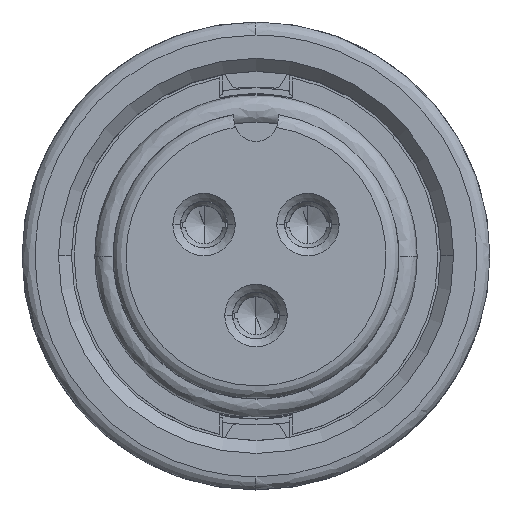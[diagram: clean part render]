
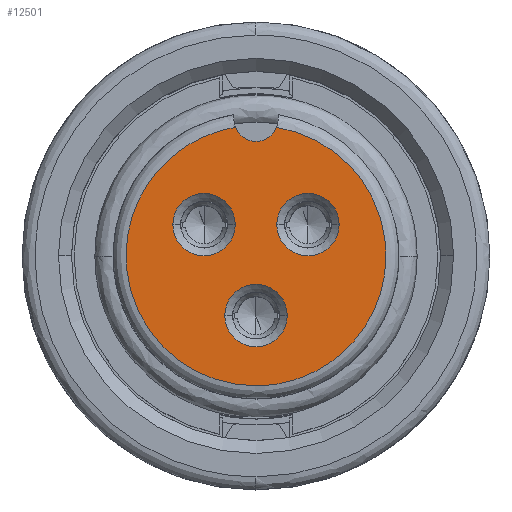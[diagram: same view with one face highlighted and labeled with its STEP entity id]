
A CAD part, top view. The second image highlights one B-rep face of the part: STEP entity #12501.
In plain terms, the highlighted planar face has unit normal (0, 0, 1).
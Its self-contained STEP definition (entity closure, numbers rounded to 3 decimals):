
#263 = DIRECTION ( 'NONE',  ( 0., 0., 1. ) ) ;
#370 = DIRECTION ( 'NONE',  ( 1., 0., 0. ) ) ;
#561 = EDGE_CURVE ( 'NONE', #35519, #34629, #13180, .T. ) ;
#1351 = CARTESIAN_POINT ( 'NONE',  ( -0.061, -5., 0. ) ) ;
#1948 =( BOUNDED_CURVE ( )  B_SPLINE_CURVE ( 3, ( #1351, #17536, #28122, #17720 ),
 .UNSPECIFIED., .F., .T. ) 
 B_SPLINE_CURVE_WITH_KNOTS ( ( 4, 4 ),
 ( 0., 1. ),
 .UNSPECIFIED. ) 
 CURVE ( )  GEOMETRIC_REPRESENTATION_ITEM ( )  RATIONAL_B_SPLINE_CURVE ( ( 1., 0.39, 0.39, 1. ) ) 
 REPRESENTATION_ITEM ( '' )  );
#2088 = ORIENTED_EDGE ( 'NONE', *, *, #12130, .F. ) ;
#2598 = CARTESIAN_POINT ( 'NONE',  ( -0.79, 4.937, 0. ) ) ;
#3040 = CARTESIAN_POINT ( 'NONE',  ( 0., -2.3, 0. ) ) ;
#3306 = AXIS2_PLACEMENT_3D ( 'NONE', #20636, #31582, #3716 ) ;
#3716 = DIRECTION ( 'NONE',  ( 1., 0., 0. ) ) ;
#3756 = VERTEX_POINT ( 'NONE', #2598 ) ;
#3860 = AXIS2_PLACEMENT_3D ( 'NONE', #16935, #25532, #19459 ) ;
#3952 = DIRECTION ( 'NONE',  ( 0., 0., -1. ) ) ;
#3965 = CIRCLE ( 'NONE', #11995, 1.2 ) ;
#4649 = VERTEX_POINT ( 'NONE', #20788 ) ;
#4751 = ORIENTED_EDGE ( 'NONE', *, *, #5674, .T. ) ;
#5452 = PLANE ( 'NONE',  #8392 ) ;
#5637 = FACE_BOUND ( 'NONE', #23298, .T. ) ;
#5674 = EDGE_CURVE ( 'NONE', #6828, #17761, #33152, .T. ) ;
#6631 = CARTESIAN_POINT ( 'NONE',  ( 1.2, -2.3, 0. ) ) ;
#6771 = VERTEX_POINT ( 'NONE', #32858 ) ;
#6828 = VERTEX_POINT ( 'NONE', #14842 ) ;
#6881 = CIRCLE ( 'NONE', #8026, 0.85 ) ;
#7332 = CIRCLE ( 'NONE', #3306, 1.2 ) ;
#7530 = DIRECTION ( 'NONE',  ( 0., 0., -1. ) ) ;
#7623 = VERTEX_POINT ( 'NONE', #25382 ) ;
#7895 = ORIENTED_EDGE ( 'NONE', *, *, #26593, .T. ) ;
#8026 = AXIS2_PLACEMENT_3D ( 'NONE', #35215, #7530, #18689 ) ;
#8104 = CIRCLE ( 'NONE', #21904, 1.2 ) ;
#8109 = VERTEX_POINT ( 'NONE', #6631 ) ;
#8139 =( BOUNDED_CURVE ( )  B_SPLINE_CURVE ( 3, ( #12140, #9248, #25965, #23119 ),
 .UNSPECIFIED., .F., .T. ) 
 B_SPLINE_CURVE_WITH_KNOTS ( ( 4, 4 ),
 ( 0., 1. ),
 .UNSPECIFIED. ) 
 CURVE ( )  GEOMETRIC_REPRESENTATION_ITEM ( )  RATIONAL_B_SPLINE_CURVE ( ( 1., 0.382, 0.382, 1. ) ) 
 REPRESENTATION_ITEM ( '' )  );
#8392 = AXIS2_PLACEMENT_3D ( 'NONE', #32964, #263, #11213 ) ;
#8643 = CIRCLE ( 'NONE', #29334, 1.2 ) ;
#9056 = CARTESIAN_POINT ( 'NONE',  ( 2., 1.2, 0. ) ) ;
#9248 = CARTESIAN_POINT ( 'NONE',  ( 9.38, 3.562, 0. ) ) ;
#9602 = DIRECTION ( 'NONE',  ( 1., 0., 0. ) ) ;
#9789 = DIRECTION ( 'NONE',  ( 0., 0., -1. ) ) ;
#9814 = ORIENTED_EDGE ( 'NONE', *, *, #10621, .F. ) ;
#10621 = EDGE_CURVE ( 'NONE', #6771, #3756, #1948, .T. ) ;
#11213 = DIRECTION ( 'NONE',  ( 1., 0., 0. ) ) ;
#11555 = ORIENTED_EDGE ( 'NONE', *, *, #19648, .T. ) ;
#11995 = AXIS2_PLACEMENT_3D ( 'NONE', #9056, #9789, #9602 ) ;
#12130 = EDGE_CURVE ( 'NONE', #7623, #6771, #8139, .T. ) ;
#12140 = CARTESIAN_POINT ( 'NONE',  ( 0.79, 4.937, 0. ) ) ;
#12501 = ADVANCED_FACE ( 'NONE', ( #21838, #5637, #27567, #32790 ), #5452, .T. ) ;
#13180 = CIRCLE ( 'NONE', #26918, 1.2 ) ;
#13551 = EDGE_LOOP ( 'NONE', ( #31827, #4751 ) ) ;
#14842 = CARTESIAN_POINT ( 'NONE',  ( 3.2, 1.2, 0. ) ) ;
#15029 = ORIENTED_EDGE ( 'NONE', *, *, #28802, .T. ) ;
#16935 = CARTESIAN_POINT ( 'NONE',  ( 2., 1.2, 0. ) ) ;
#17458 = DIRECTION ( 'NONE',  ( 1., 0., 0. ) ) ;
#17536 = CARTESIAN_POINT ( 'NONE',  ( -8.571, -4.896, 0. ) ) ;
#17720 = CARTESIAN_POINT ( 'NONE',  ( -0.79, 4.937, 0. ) ) ;
#17761 = VERTEX_POINT ( 'NONE', #18489 ) ;
#18489 = CARTESIAN_POINT ( 'NONE',  ( 0.8, 1.2, 0. ) ) ;
#18689 = DIRECTION ( 'NONE',  ( 1., 0., 0. ) ) ;
#19301 = EDGE_LOOP ( 'NONE', ( #15029, #20878 ) ) ;
#19459 = DIRECTION ( 'NONE',  ( 1., 0., 0. ) ) ;
#19648 = EDGE_CURVE ( 'NONE', #34629, #35519, #7332, .T. ) ;
#20518 = CARTESIAN_POINT ( 'NONE',  ( -2., 1.2, 0. ) ) ;
#20636 = CARTESIAN_POINT ( 'NONE',  ( -2., 1.2, 0. ) ) ;
#20788 = CARTESIAN_POINT ( 'NONE',  ( -1.2, -2.3, 0. ) ) ;
#20878 = ORIENTED_EDGE ( 'NONE', *, *, #29582, .T. ) ;
#21648 = ORIENTED_EDGE ( 'NONE', *, *, #561, .T. ) ;
#21838 = FACE_BOUND ( 'NONE', #19301, .T. ) ;
#21904 = AXIS2_PLACEMENT_3D ( 'NONE', #3040, #24987, #370 ) ;
#22211 = CARTESIAN_POINT ( 'NONE',  ( 0., -2.3, 0. ) ) ;
#22385 = DIRECTION ( 'NONE',  ( 1., 0., 0. ) ) ;
#23119 = CARTESIAN_POINT ( 'NONE',  ( -0.061, -5., 0. ) ) ;
#23298 = EDGE_LOOP ( 'NONE', ( #21648, #11555 ) ) ;
#23407 = CARTESIAN_POINT ( 'NONE',  ( -3.2, 1.2, 0. ) ) ;
#24987 = DIRECTION ( 'NONE',  ( 0., 0., -1. ) ) ;
#25382 = CARTESIAN_POINT ( 'NONE',  ( 0.79, 4.937, 0. ) ) ;
#25532 = DIRECTION ( 'NONE',  ( 0., 0., -1. ) ) ;
#25965 = CARTESIAN_POINT ( 'NONE',  ( 8.638, -5.106, 0. ) ) ;
#26593 = EDGE_CURVE ( 'NONE', #7623, #3756, #6881, .T. ) ;
#26918 = AXIS2_PLACEMENT_3D ( 'NONE', #20518, #3952, #17458 ) ;
#27202 = EDGE_LOOP ( 'NONE', ( #2088, #7895, #9814 ) ) ;
#27567 = FACE_BOUND ( 'NONE', #13551, .T. ) ;
#28122 = CARTESIAN_POINT ( 'NONE',  ( -9.194, 3.592, 0. ) ) ;
#28802 = EDGE_CURVE ( 'NONE', #4649, #8109, #8643, .T. ) ;
#29334 = AXIS2_PLACEMENT_3D ( 'NONE', #22211, #30116, #22385 ) ;
#29582 = EDGE_CURVE ( 'NONE', #8109, #4649, #8104, .T. ) ;
#30116 = DIRECTION ( 'NONE',  ( 0., 0., -1. ) ) ;
#30258 = CARTESIAN_POINT ( 'NONE',  ( -0.8, 1.2, 0. ) ) ;
#31582 = DIRECTION ( 'NONE',  ( 0., 0., -1. ) ) ;
#31827 = ORIENTED_EDGE ( 'NONE', *, *, #35364, .T. ) ;
#32790 = FACE_OUTER_BOUND ( 'NONE', #27202, .T. ) ;
#32858 = CARTESIAN_POINT ( 'NONE',  ( -0.061, -5., 0. ) ) ;
#32964 = CARTESIAN_POINT ( 'NONE',  ( 0.001, -0.031, 0. ) ) ;
#33152 = CIRCLE ( 'NONE', #3860, 1.2 ) ;
#34629 = VERTEX_POINT ( 'NONE', #30258 ) ;
#35215 = CARTESIAN_POINT ( 'NONE',  ( 0., 5.25, 0. ) ) ;
#35364 = EDGE_CURVE ( 'NONE', #17761, #6828, #3965, .T. ) ;
#35519 = VERTEX_POINT ( 'NONE', #23407 ) ;
